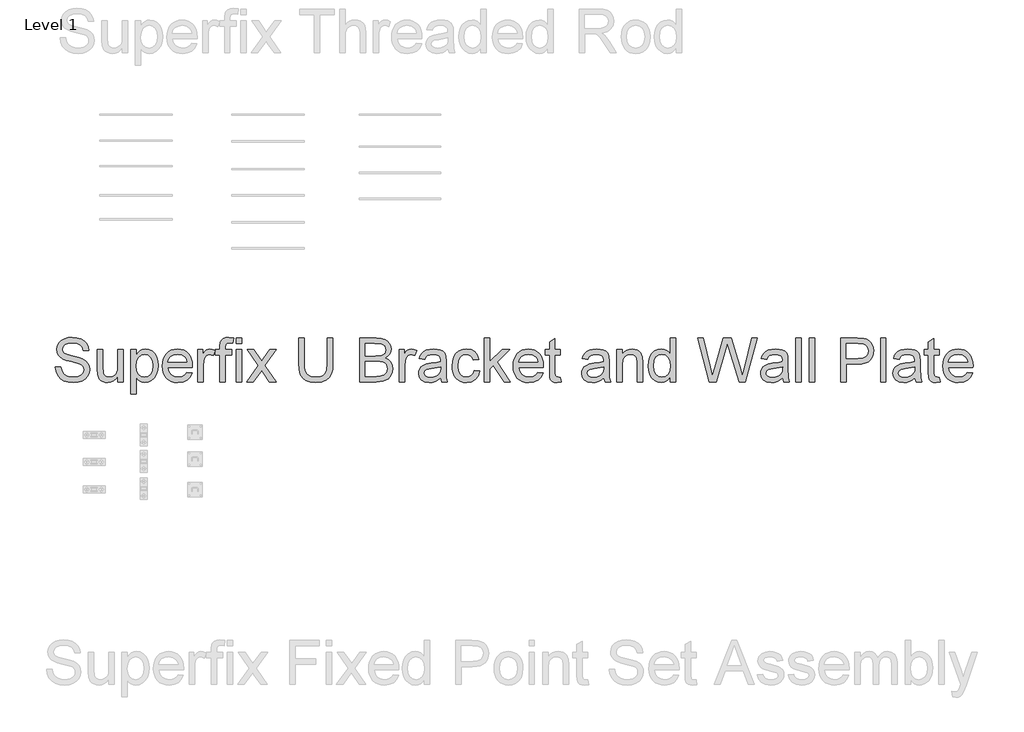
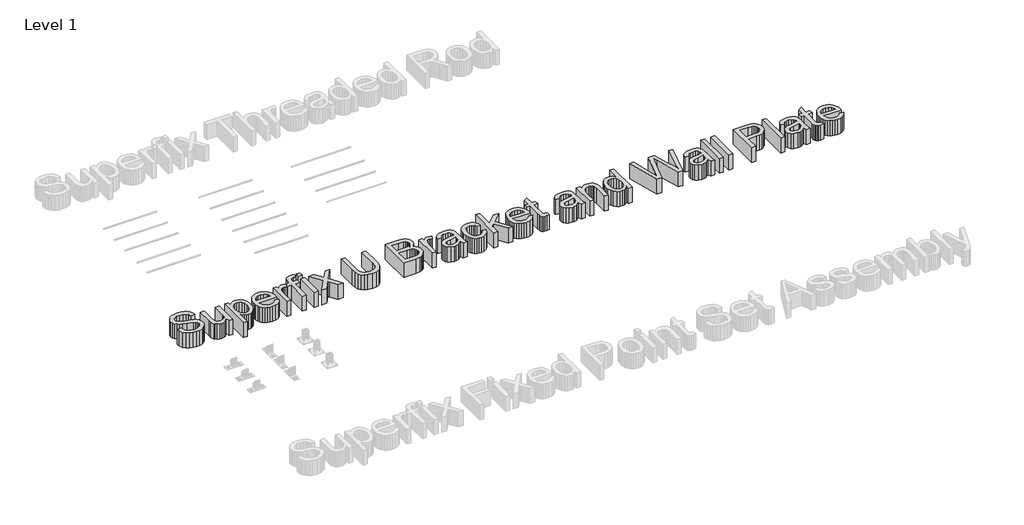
# One storey, part 23 of 32: 1 proxy.
"""IFC4 building model written with IfcOpenShell, lengths in millimetres."""

from ifc_helpers import new_model, si_unit, origin, origin_with_axes, place, context, project, spatial, polyline, outline, extrude, element, save

model = new_model("IFC4")

# Units and contexts
model_context = context("Model", 3, world=origin())
ifc_project = project(units=[si_unit("LENGTHUNIT", "METRE", prefix="MILLI")], contexts=[model_context])

# Site, building, storey
site = spatial("IfcSite", under=ifc_project)
building = spatial("IfcBuilding", under=site)
storey = spatial("IfcBuildingStorey", under=building, Name="Level 1", Elevation=0.0)

# Proxy
placement = place(None, origin())
element("IfcBuildingElementProxy", 1, Name="300mm Arial 2", ObjectType="300mm Arial 2", at=placement, inside=storey, context=model_context, shape_type="SweptSolid", body=[
    extrude(outline(polyline([(-40431.7020951, 20689.4230477), (-40394.0309788, 20689.4230477), (-40389.7083653, 20668.5181533), (-40381.8908729, 20651.7151432), (-40369.6955848, 20638.3794209), (-40352.2395841, 20627.8763899), (-40330.9024284, 20621.0613759), (-40307.0636751, 20618.7897046), (-40286.0760073, 20620.5095529), (-40267.7003016, 20625.6690979), (-40252.8102779, 20633.8360782), (-40242.2796558, 20644.5782325), (-40236.0164648, 20656.9114764), (-40233.9287345, 20669.8517255), (-40235.4922329, 20682.4608809), (-40240.1827284, 20693.359385), (-40249.7108721, 20702.6576025), (-40265.7873152, 20710.4658978), (-40320.6385207, 20724.8500838), (-40356.644971, 20734.3690304), (-40379.683581, 20743.4281246), (-40398.4363657, 20756.1016593), (-40411.7261027, 20771.4607326), (-40419.6447627, 20789.1742507), (-40422.284316, 20808.9111197), (-40419.0193633, 20830.9748424), (-40409.2245052, 20851.548643), (-40393.157259, 20868.9862495), (-40371.0751423, 20881.6413902), (-40344.5692445, 20889.3393209), (-40315.2306554, 20891.9052978), (-40283.445651, 20889.2197593), (-40255.6337722, 20881.1631436), (-40232.7883003, 20867.9009976), (-40215.9025167, 20849.5988684), (-40205.2155447, 20827.39719), (-40200.9665077, 20802.4363966), (-40238.637624, 20802.4363966), (-40245.5538055, 20824.9139865), (-40259.9747797, 20841.1375825), (-40282.5075519, 20850.9600318), (-40313.7591274, 20854.2341815), (-40345.7464669, 20850.99682), (-40367.6906279, 20841.2847353), (-40380.3825567, 20826.9925198), (-40384.6131997, 20810.0147657), (-40381.6149614, 20795.5386092), (-40372.6202466, 20783.895144), (-40351.3566673, 20773.4840836), (-40311.1103771, 20762.8522939), (-40269.5764998, 20752.7539332), (-40244.4501595, 20743.9431594), (-40222.9750481, 20730.2763432), (-40207.9930538, 20713.4089538), (-40199.1914771, 20693.5249319), (-40196.2576182, 20670.8082187), (-40199.6329355, 20647.5856678), (-40209.7588874, 20625.7426743), (-40226.2216067, 20606.9439044), (-40248.6072261, 20592.8540239), (-40275.5269911, 20584.0524472), (-40305.5921471, 20581.1185883), (-40342.4999083, 20584.2823735), (-40372.877764, 20593.7737289), (-40397.0752023, 20609.6294429), (-40415.4417109, 20631.8863036), (-40427.2323288, 20658.9992067), (-40431.7020951, 20689.4230477)])), origin_with_axes(), (0.0, 0.0, 1.0), 150.0),
    extrude(outline(polyline([(-40003.1931471, 20585.8274778), (-40003.1931471, 20623.8664761), (-40016.823175, 20605.1642752), (-40032.6972831, 20591.8055603), (-40050.8154714, 20583.7903313), (-40071.1777398, 20581.1185883), (-40089.5258543, 20582.9947865), (-40106.6047759, 20588.623381), (-40120.9337796, 20597.0846669), (-40131.0321404, 20607.4589392), (-40142.2525413, 20635.1972416), (-40144.4598332, 20670.2196075), (-40144.4598332, 20807.1452861), (-40106.7887169, 20807.1452861), (-40106.7887169, 20687.9515197), (-40104.5078486, 20649.5446394), (-40099.0172098, 20636.7331489), (-40089.6086278, 20626.9934731), (-40076.9075019, 20620.8406467), (-40061.5392315, 20618.7897046), (-40045.2880444, 20620.886632), (-40030.0853209, 20627.1774141), (-40017.549742, 20637.0826368), (-40009.2999882, 20650.022886), (-40004.7198574, 20667.7456011), (-40003.1931471, 20691.9982216), (-40003.1931471, 20807.1452861), (-39965.5220308, 20807.1452861), (-39965.5220308, 20585.8274778), (-40003.1931471, 20585.8274778)])), origin_with_axes(), (0.0, 0.0, 1.0), 150.0),
    extrude(outline(polyline([(-39913.7242459, 20501.0674662), (-39913.7242459, 20807.1452861), (-39876.0531296, 20807.1452861), (-39876.0531296, 20770.2099338), (-39863.7658709, 20788.4292896), (-39850.0070843, 20801.4431152), (-39833.9674293, 20809.2514106), (-39814.8375656, 20811.8541757), (-39789.3617374, 20808.2121439), (-39767.0864826, 20797.2860487), (-39748.9499002, 20779.7380775), (-39735.8900894, 20756.230418), (-39727.9990206, 20728.4737215), (-39725.3686643, 20698.1786392), (-39728.3393114, 20665.9613734), (-39737.2512528, 20637.1470162), (-39751.8193798, 20613.1978983), (-39771.7585839, 20595.5763507), (-39794.9811349, 20584.7330289), (-39819.3993023, 20581.1185883), (-39836.7173472, 20583.5374124), (-39852.1775881, 20590.7938848), (-39865.4121428, 20601.7475712), (-39876.0531296, 20615.2580375), (-39876.0531296, 20501.0674662), (-39913.7242459, 20501.0674662)]), holes=[polyline([(-39876.0531296, 20694.7205484), (-39871.9788365, 20660.9489813), (-39859.7559572, 20637.3309572), (-39841.7205424, 20623.4250177), (-39820.2086427, 20618.7897046), (-39798.3472551, 20623.5905646), (-39779.8519878, 20637.9931448), (-39767.2428324, 20662.4756915), (-39763.0397806, 20697.5164516), (-39767.1416649, 20731.1040777), (-39779.4473176, 20755.0531956), (-39797.4551413, 20769.4005934), (-39818.6635383, 20774.1830594), (-39839.9547088, 20769.0970908), (-39858.6523112, 20753.839185), (-39871.702925, 20728.8875887), (-39876.0531296, 20694.7205484)])]), origin_with_axes(), (0.0, 0.0, 1.0), 150.0),
    extrude(outline(polyline([(-39528.0367621, 20651.7519314), (-39491.1014098, 20647.0430418), (-39504.409541, 20619.2127689), (-39525.6455291, 20598.4090421), (-39554.3311277, 20585.4412017), (-39589.9880901, 20581.1185883), (-39613.3623924, 20582.9832902), (-39634.1891118, 20588.5773958), (-39652.4682485, 20597.9009051), (-39668.1998023, 20610.9538181), (-39680.8503444, 20627.3728514), (-39689.8864459, 20646.7947215), (-39695.3081068, 20669.2194284), (-39697.1153271, 20694.646972), (-39695.2897127, 20720.9367391), (-39689.8128695, 20744.1087063), (-39680.6847975, 20764.1628735), (-39667.9054967, 20781.0992409), (-39652.2153296, 20794.5545249), (-39634.3546587, 20804.165442), (-39614.3234841, 20809.9319923), (-39592.1218057, 20811.8541757), (-39570.6351979, 20809.9365908), (-39551.2041308, 20804.1838361), (-39533.8286043, 20794.5959116), (-39518.5086184, 20781.1728173), (-39506.0029299, 20764.2732381), (-39497.0702952, 20744.2558591), (-39491.7107144, 20721.1206801), (-39489.9241874, 20694.8677012), (-39490.1449166, 20684.7141581), (-39659.4442108, 20684.7141581), (-39652.9235024, 20656.5160032), (-39637.7759613, 20635.7858528), (-39615.9145737, 20623.0387417), (-39589.2523261, 20618.7897046), (-39569.2027574, 20620.7578733), (-39552.3169738, 20626.6623793), (-39538.5949754, 20636.8711047), (-39528.0367621, 20651.7519314)]), holes=[polyline([(-39659.4442108, 20722.3852745), (-39527.5953037, 20722.3852745), (-39532.6904694, 20742.2876904), (-39542.6784655, 20756.5247236), (-39564.6410206, 20769.7684754), (-39592.2689585, 20774.1830594), (-39617.6620132, 20770.6605893), (-39638.6588781, 20760.093179), (-39653.2545962, 20743.6212626), (-39659.4442108, 20722.3852745)])]), origin_with_axes(), (0.0, 0.0, 1.0), 150.0),
    extrude(outline(polyline([(-39452.2530711, 20585.8274778), (-39452.2530711, 20807.1452861), (-39419.2908443, 20807.1452861), (-39419.2908443, 20774.4037886), (-39407.1139503, 20793.3864995), (-39395.8935495, 20804.5701122), (-39384.6363604, 20810.0331598), (-39372.3491018, 20811.8541757), (-39353.58712, 20808.9479079), (-39334.5308327, 20800.2291046), (-39347.1123969, 20766.4575375), (-39360.3561487, 20772.2516789), (-39373.5999005, 20774.1830594), (-39384.8478925, 20772.3252553), (-39394.9002681, 20766.7518431), (-39403.0212631, 20757.885887), (-39408.4751137, 20746.1504513), (-39413.0552445, 20725.1076012), (-39414.5819548, 20702.1517647), (-39414.5819548, 20585.8274778), (-39452.2530711, 20585.8274778)])), origin_with_axes(), (0.0, 0.0, 1.0), 150.0),
    extrude(outline(polyline([(-39301.5686059, 20585.8274778), (-39301.5686059, 20769.4741698), (-39334.5308327, 20769.4741698), (-39334.5308327, 20807.1452861), (-39301.5686059, 20807.1452861), (-39301.5686059, 20829.438935), (-39297.5954803, 20860.8560574), (-39290.0171112, 20873.3824394), (-39278.3184638, 20883.2968591), (-39261.947715, 20889.7531882), (-39240.3530419, 20891.9052978), (-39205.9928635, 20887.7850195), (-39211.5110935, 20852.4683479), (-39233.2161312, 20854.2341815), (-39247.5359378, 20852.670683), (-39256.9445199, 20847.9801876), (-39262.1592472, 20839.022261), (-39263.8974896, 20824.6564691), (-39263.8974896, 20807.1452861), (-39221.5174837, 20807.1452861), (-39221.5174837, 20769.4741698), (-39263.8974896, 20769.4741698), (-39263.8974896, 20585.8274778), (-39301.5686059, 20585.8274778)])), origin_with_axes(), (0.0, 0.0, 1.0), 150.0),
    extrude(outline(polyline([(-39188.555257, 20585.8274778), (-39188.555257, 20807.1452861), (-39150.8841407, 20807.1452861), (-39150.8841407, 20585.8274778), (-39188.555257, 20585.8274778)])), origin_with_axes(), (0.0, 0.0, 1.0), 150.0),
    extrude(outline(polyline([(-39188.555257, 20849.525292), (-39188.555257, 20887.1964083), (-39150.8841407, 20887.1964083), (-39150.8841407, 20849.525292), (-39188.555257, 20849.525292)])), origin_with_axes(), (0.0, 0.0, 1.0), 150.0),
    extrude(outline(polyline([(-39117.9219139, 20585.8274778), (-39037.4293334, 20697.0749932), (-39113.2130244, 20807.1452861), (-39067.8899626, 20807.1452861), (-39031.3224922, 20754.1702788), (-39014.2527677, 20729.1543032), (-38999.4639114, 20749.6085421), (-38957.8196696, 20807.1452861), (-38912.4966078, 20807.1452861), (-38992.1062715, 20697.0749932), (-38915.4396637, 20585.8274778), (-38960.7627256, 20585.8274778), (-39006.8951278, 20652.7084246), (-39015.3564136, 20664.9221068), (-39072.5988521, 20585.8274778), (-39117.9219139, 20585.8274778)])), origin_with_axes(), (0.0, 0.0, 1.0), 150.0),
    extrude(outline(polyline([(-38562.2729484, 20887.1964083), (-38524.6018321, 20887.1964083), (-38524.6018321, 20713.3353774), (-38527.1586119, 20672.6200376), (-38534.8289515, 20641.2672945), (-38549.1579553, 20617.0790533), (-38571.6907275, 20597.8572191), (-38602.4824505, 20585.303246), (-38641.5883065, 20581.1185883), (-38679.838837, 20584.7606201), (-38710.4190278, 20595.6867153), (-38733.3380761, 20613.519795), (-38748.6051789, 20637.8827802), (-38757.1860265, 20670.5598984), (-38760.046309, 20713.3353774), (-38760.046309, 20887.1964083), (-38722.3751927, 20887.1964083), (-38722.3751927, 20714.6597526), (-38720.5173886, 20680.8054119), (-38714.9439764, 20657.2333731), (-38704.8456156, 20640.9086096), (-38689.4129659, 20628.7960949), (-38669.2898208, 20621.2913022), (-38645.1199737, 20618.7897046), (-38606.8050639, 20623.7377174), (-38592.4622646, 20629.9227335), (-38581.3292357, 20638.5817559), (-38572.99211, 20650.75865), (-38567.0370202, 20667.4972808), (-38562.2729484, 20714.6597526), (-38562.2729484, 20887.1964083)])), origin_with_axes(), (0.0, 0.0, 1.0), 150.0),
    extrude(outline(polyline([(-38340.9551401, 20585.8274778), (-38340.9551401, 20887.1964083), (-38225.9552284, 20887.1964083), (-38194.3265739, 20884.9799193), (-38169.6324949, 20878.3304522), (-38150.7049663, 20867.0824602), (-38136.3759626, 20851.0703964), (-38127.3536566, 20832.2348382), (-38124.3462213, 20812.5163633), (-38126.87541, 20794.3705839), (-38134.4629762, 20777.3100563), (-38147.1641021, 20762.3832444), (-38165.03397, 20750.6386117), (-38143.6876172, 20739.4917872), (-38127.9146767, 20722.5324272), (-38118.1750009, 20700.8825718), (-38114.9284422, 20675.6642611), (-38117.1449313, 20654.6490021), (-38123.7943983, 20635.1604534), (-38133.7180151, 20618.5873695), (-38145.7569534, 20606.318505), (-38160.4998244, 20597.4341548), (-38178.5352392, 20591.014614), (-38226.8381452, 20585.8274778), (-38340.9551401, 20585.8274778)]), holes=[polyline([(-38303.2840238, 20623.4985941), (-38226.0288048, 20623.4985941), (-38198.0697732, 20624.9701221), (-38174.4149609, 20633.1738906), (-38158.7431879, 20649.9125214), (-38154.1354659, 20661.7399275), (-38152.5995586, 20675.2963791), (-38154.4021803, 20691.0417285), (-38159.8100457, 20704.5797859), (-38169.2554159, 20715.1655903), (-38183.1705524, 20722.0541807), (-38202.8798302, 20725.8341682), (-38229.7076247, 20727.094164), (-38303.2840238, 20727.094164), (-38303.2840238, 20623.4985941)]), polyline([(-38303.2840238, 20764.7652803), (-38234.4900907, 20764.7652803), (-38194.3173768, 20768.0026419), (-38180.2550875, 20773.5852511), (-38170.1475297, 20781.9453695), (-38164.0498857, 20792.9542382), (-38162.0173376, 20806.4830985), (-38163.9119299, 20819.6164858), (-38169.5957067, 20831.0576158), (-38178.8111507, 20839.9879513), (-38191.3007444, 20845.5889546), (-38239.714015, 20849.525292), (-38303.2840238, 20849.525292), (-38303.2840238, 20764.7652803)])]), origin_with_axes(), (0.0, 0.0, 1.0), 150.0),
    extrude(outline(polyline([(-38067.8395469, 20585.8274778), (-38067.8395469, 20807.1452861), (-38034.8773201, 20807.1452861), (-38034.8773201, 20774.4037886), (-38022.7004261, 20793.3864995), (-38011.4800252, 20804.5701122), (-38000.2228361, 20810.0331598), (-37987.9355775, 20811.8541757), (-37969.1735958, 20808.9479079), (-37950.1173084, 20800.2291046), (-37962.6988726, 20766.4575375), (-37975.9426245, 20772.2516789), (-37989.1863763, 20774.1830594), (-38000.4343683, 20772.3252553), (-38010.4867438, 20766.7518431), (-38018.6077389, 20757.885887), (-38024.0615894, 20746.1504513), (-38028.6417203, 20725.1076012), (-38030.1684306, 20702.1517647), (-38030.1684306, 20585.8274778), (-38067.8395469, 20585.8274778)])), origin_with_axes(), (0.0, 0.0, 1.0), 150.0),
    extrude(outline(polyline([(-37785.3061746, 20614.0808151), (-37803.3048012, 20598.6481654), (-37821.8368567, 20588.5498046), (-37841.3254054, 20582.9763924), (-37862.1935116, 20581.1185883), (-37893.6750133, 20585.5883545), (-37916.8975642, 20598.9976533), (-37931.2173709, 20619.3599217), (-37935.9906398, 20644.6885971), (-37934.188018, 20660.3051878), (-37928.7801527, 20674.4870387), (-37920.4384284, 20686.6271445), (-37909.8342299, 20696.1185), (-37883.4570909, 20708.479335), (-37850.8627461, 20714.1447178), (-37812.3455012, 20720.1044061), (-37785.5269038, 20727.094164), (-37785.3061746, 20735.4818735), (-37787.8997426, 20752.2940807), (-37795.6804468, 20763.2937523), (-37813.0812652, 20771.4607326), (-37837.3246887, 20774.1830594), (-37859.7654904, 20772.3712405), (-37875.4372634, 20766.9357841), (-37886.1242353, 20756.8834085), (-37893.6106339, 20741.2208326), (-37931.2817503, 20745.9297221), (-37924.7426478, 20766.5311139), (-37914.9845779, 20782.7179217), (-37901.0970325, 20795.0971508), (-37882.1695039, 20804.2758066), (-37859.0205294, 20809.9595834), (-37832.4686463, 20811.8541757), (-37807.0020152, 20810.1803126), (-37786.8144907, 20805.1587234), (-37771.5933732, 20797.6079454), (-37761.0259629, 20788.3465162), (-37754.0178109, 20776.8961891), (-37749.4744682, 20762.7787175), (-37747.6350583, 20729.8164908), (-37747.6350583, 20682.9483246), (-37745.7220719, 20617.5021176), (-37738.2172792, 20585.8274778), (-37775.8883955, 20585.8274778), (-37785.3061746, 20614.0808151)]), holes=[polyline([(-37785.3061746, 20689.4230477), (-37846.0802802, 20677.871553), (-37878.4906839, 20671.7647119), (-37893.1691756, 20661.831898), (-37898.3195235, 20647.3373474), (-37895.5144233, 20636.1353407), (-37887.0991226, 20626.9566849), (-37873.2575626, 20620.8314497), (-37854.1736841, 20618.7897046), (-37833.9401743, 20621.0429818), (-37816.0611094, 20627.8028135), (-37801.5665588, 20637.7632185), (-37791.4865921, 20649.6182158), (-37787.0168258, 20661.831898), (-37785.5269038, 20678.7544698), (-37785.3061746, 20689.4230477)])]), origin_with_axes(), (0.0, 0.0, 1.0), 150.0),
    extrude(outline(polyline([(-37554.5705872, 20665.8786), (-37516.8994709, 20661.1697105), (-37527.4025018, 20627.6648577), (-37547.1393709, 20602.3453794), (-37574.2522739, 20586.4252861), (-37606.8834069, 20581.1185883), (-37628.0113297, 20582.9694946), (-37646.9549532, 20588.5222135), (-37663.7142774, 20597.7767449), (-37678.2893022, 20610.7330889), (-37690.0868179, 20627.1475237), (-37698.5136149, 20646.7763274), (-37703.569693, 20669.6195), (-37705.2550524, 20695.6770416), (-37702.3763758, 20729.2002884), (-37693.740346, 20758.253769), (-37679.2090072, 20781.7154432), (-37658.6444036, 20798.4632711), (-37634.0422952, 20808.5064495), (-37607.3984417, 20811.8541757), (-37575.5674521, 20807.2556507), (-37550.119215, 20793.4600759), (-37531.863071, 20771.2032152), (-37521.6083604, 20741.2208326), (-37559.2794767, 20736.5119431), (-37566.1128848, 20752.9470712), (-37576.7538715, 20764.7284921), (-37590.6138257, 20771.8194176), (-37607.1041361, 20774.1830594), (-37631.4487271, 20769.5293521), (-37650.7717289, 20755.5682304), (-37663.3808843, 20731.5455361), (-37667.5839361, 20696.7071112), (-37663.4728548, 20661.3996367), (-37651.1396109, 20637.294169), (-37632.166097, 20623.4158207), (-37608.1342057, 20618.7897046), (-37588.6272629, 20621.6775783), (-37572.6335932, 20630.3411993), (-37560.9993251, 20645.0012968), (-37554.5705872, 20665.8786)])), origin_with_axes(), (0.0, 0.0, 1.0), 150.0),
    extrude(outline(polyline([(-37483.9372441, 20585.8274778), (-37483.9372441, 20887.1964083), (-37446.2661278, 20887.1964083), (-37446.2661278, 20725.254754), (-37361.8004217, 20807.1452861), (-37309.7083312, 20807.1452861), (-37395.2041069, 20724.2246844), (-37304.9994417, 20585.8274778), (-37348.9981283, 20585.8274778), (-37422.2066453, 20698.0314864), (-37446.2661278, 20674.7077679), (-37446.2661278, 20585.8274778), (-37483.9372441, 20585.8274778)])), origin_with_axes(), (0.0, 0.0, 1.0), 150.0),
    extrude(outline(polyline([(-37117.0853185, 20651.7519314), (-37080.1499662, 20647.0430418), (-37093.4580974, 20619.2127689), (-37114.6940856, 20598.4090421), (-37143.3796841, 20585.4412017), (-37179.0366465, 20581.1185883), (-37202.4109488, 20582.9832902), (-37223.2376682, 20588.5773958), (-37241.5168049, 20597.9009051), (-37257.2483587, 20610.9538181), (-37269.8989008, 20627.3728514), (-37278.9350023, 20646.7947215), (-37284.3566632, 20669.2194284), (-37286.1638835, 20694.646972), (-37284.3382691, 20720.9367391), (-37278.8614259, 20744.1087063), (-37269.7333539, 20764.1628735), (-37256.9540531, 20781.0992409), (-37241.263886, 20794.5545249), (-37223.4032151, 20804.165442), (-37203.3720405, 20809.9319923), (-37181.1703621, 20811.8541757), (-37159.6837543, 20809.9365908), (-37140.2526872, 20804.1838361), (-37122.8771607, 20794.5959116), (-37107.5571749, 20781.1728173), (-37095.0514863, 20764.2732381), (-37086.1188516, 20744.2558591), (-37080.7592708, 20721.1206801), (-37078.9727438, 20694.8677012), (-37079.193473, 20684.7141581), (-37248.4927672, 20684.7141581), (-37241.9720588, 20656.5160032), (-37226.8245177, 20635.7858528), (-37204.9631301, 20623.0387417), (-37178.3008825, 20618.7897046), (-37158.2513138, 20620.7578733), (-37141.3655302, 20626.6623793), (-37127.6435318, 20636.8711047), (-37117.0853185, 20651.7519314)]), holes=[polyline([(-37248.4927672, 20722.3852745), (-37116.6438601, 20722.3852745), (-37121.7390258, 20742.2876904), (-37131.7270219, 20756.5247236), (-37153.689577, 20769.7684754), (-37181.3175149, 20774.1830594), (-37206.7105696, 20770.6605893), (-37227.7074345, 20760.093179), (-37242.3031526, 20743.6212626), (-37248.4927672, 20722.3852745)])]), origin_with_axes(), (0.0, 0.0, 1.0), 150.0),
    extrude(outline(polyline([(-36961.2505054, 20617.2446002), (-36956.5416158, 20584.7238319), (-36984.7213767, 20581.1185883), (-37002.8027767, 20582.6820868), (-37016.2856518, 20587.3725822), (-37025.8137955, 20594.6014634), (-37032.0310012, 20603.7801192), (-37035.4523038, 20619.5438627), (-37036.592738, 20646.528007), (-37036.592738, 20769.4741698), (-37064.8460752, 20769.4741698), (-37064.8460752, 20807.1452861), (-37036.592738, 20807.1452861), (-37036.592738, 20860.9296338), (-36998.9216217, 20883.0761299), (-36998.9216217, 20807.1452861), (-36961.2505054, 20807.1452861), (-36961.2505054, 20769.4741698), (-36998.9216217, 20769.4741698), (-36998.9216217, 20647.631653), (-36996.9350589, 20628.2074837), (-36990.497124, 20621.3280904), (-36977.6580424, 20618.7897046), (-36961.2505054, 20617.2446002)])), origin_with_axes(), (0.0, 0.0, 1.0), 150.0),
    extrude(outline(polyline([(-36664.5904645, 20614.0808151), (-36682.5890911, 20598.6481654), (-36701.1211466, 20588.5498046), (-36720.6096953, 20582.9763924), (-36741.4778015, 20581.1185883), (-36772.9593032, 20585.5883545), (-36796.1818541, 20598.9976533), (-36810.5016608, 20619.3599217), (-36815.2749297, 20644.6885971), (-36813.4723079, 20660.3051878), (-36808.0644426, 20674.4870387), (-36799.7227183, 20686.6271445), (-36789.1185198, 20696.1185), (-36762.7413808, 20708.479335), (-36730.147036, 20714.1447178), (-36691.6297911, 20720.1044061), (-36664.8111937, 20727.094164), (-36664.5904645, 20735.4818735), (-36667.1840325, 20752.2940807), (-36674.9647367, 20763.2937523), (-36692.3655551, 20771.4607326), (-36716.6089786, 20774.1830594), (-36739.0497803, 20772.3712405), (-36754.7215533, 20766.9357841), (-36765.4085252, 20756.8834085), (-36772.8949238, 20741.2208326), (-36810.5660401, 20745.9297221), (-36804.0269377, 20766.5311139), (-36794.2688678, 20782.7179217), (-36780.3813224, 20795.0971508), (-36761.4537938, 20804.2758066), (-36738.3048192, 20809.9595834), (-36711.7529362, 20811.8541757), (-36686.2863051, 20810.1803126), (-36666.0987806, 20805.1587234), (-36650.8776631, 20797.6079454), (-36640.3102528, 20788.3465162), (-36633.3021008, 20776.8961891), (-36628.7587581, 20762.7787175), (-36626.9193482, 20729.8164908), (-36626.9193482, 20682.9483246), (-36625.0063618, 20617.5021176), (-36617.5015691, 20585.8274778), (-36655.1726854, 20585.8274778), (-36664.5904645, 20614.0808151)]), holes=[polyline([(-36664.5904645, 20689.4230477), (-36725.3645701, 20677.871553), (-36757.7749738, 20671.7647119), (-36772.4534654, 20661.831898), (-36777.6038134, 20647.3373474), (-36774.7987132, 20636.1353407), (-36766.3834125, 20626.9566849), (-36752.5418525, 20620.8314497), (-36733.457974, 20618.7897046), (-36713.2244642, 20621.0429818), (-36695.3453993, 20627.8028135), (-36680.8508486, 20637.7632185), (-36670.770882, 20649.6182158), (-36666.3011157, 20661.831898), (-36664.8111937, 20678.7544698), (-36664.5904645, 20689.4230477)])]), origin_with_axes(), (0.0, 0.0, 1.0), 150.0),
    extrude(outline(polyline([(-36575.1215632, 20585.8274778), (-36575.1215632, 20807.1452861), (-36537.4504469, 20807.1452861), (-36537.4504469, 20776.2431985), (-36524.3630449, 20791.823001), (-36508.6452867, 20802.9514314), (-36490.2971722, 20809.6284896), (-36469.3187014, 20811.8541757), (-36450.7498577, 20810.060751), (-36433.7445125, 20804.6804768), (-36419.5626616, 20796.3847378), (-36409.4643008, 20785.8449186), (-36398.1703236, 20758.1434044), (-36396.1837608, 20721.7230869), (-36396.1837608, 20585.8274778), (-36433.8548771, 20585.8274778), (-36433.8548771, 20716.6463153), (-36438.1958846, 20749.9764241), (-36444.2015582, 20759.9000409), (-36453.5365638, 20767.5979717), (-36465.5019257, 20772.5367874), (-36479.3986681, 20774.1830594), (-36501.4623907, 20770.4858453), (-36520.2703578, 20759.3942032), (-36527.7866468, 20750.3397076), (-36533.1554246, 20737.9650769), (-36537.4504469, 20703.2554107), (-36537.4504469, 20585.8274778), (-36575.1215632, 20585.8274778)])), origin_with_axes(), (0.0, 0.0, 1.0), 150.0),
    extrude(outline(polyline([(-36207.8281792, 20585.8274778), (-36207.8281792, 20621.3648786), (-36219.0991639, 20603.7571266), (-36232.7521844, 20591.1801609), (-36248.7872409, 20583.6339814), (-36267.2043333, 20581.1185883), (-36291.5581214, 20584.7606201), (-36313.8517703, 20595.6867153), (-36332.7241166, 20613.1335189), (-36346.813997, 20636.3376758), (-36355.5879826, 20664.3610868), (-36358.5126445, 20696.2656528), (-36355.8179089, 20727.7747457), (-36347.733702, 20756.230418), (-36334.269221, 20780.013989), (-36315.4336628, 20797.5067779), (-36292.6525703, 20808.2673262), (-36267.3514861, 20811.8541757), (-36248.9205981, 20809.2881988), (-36232.6234257, 20801.590268), (-36218.8094568, 20789.790453), (-36207.8281792, 20774.9188234), (-36207.8281792, 20887.1964083), (-36170.1570629, 20887.1964083), (-36170.1570629, 20585.8274778), (-36207.8281792, 20585.8274778)]), holes=[polyline([(-36320.8415282, 20696.4128056), (-36316.5924911, 20662.3377358), (-36303.84538, 20638.1035094), (-36285.3225215, 20623.6181558), (-36263.7462425, 20618.7897046), (-36242.1791605, 20623.3974266), (-36224.1253516, 20637.2205926), (-36211.9024723, 20660.5167199), (-36207.8281792, 20693.543326), (-36211.9760487, 20729.6509439), (-36224.4196572, 20754.6853136), (-36242.9333186, 20769.3086229), (-36265.2913469, 20774.1830594), (-36287.0883551, 20769.501761), (-36304.949026, 20755.4578658), (-36316.8684026, 20731.334004), (-36320.8415282, 20696.4128056)])]), origin_with_axes(), (0.0, 0.0, 1.0), 150.0),
    extrude(outline(polyline([(-35937.28776, 20585.8274778), (-36019.4725977, 20887.1964083), (-35980.624259, 20887.1964083), (-35932.9467525, 20689.1287421), (-35918.2314726, 20627.9867545), (-35902.4861233, 20682.0654078), (-35842.7420872, 20887.1964083), (-35786.7504476, 20887.1964083), (-35743.3403721, 20738.4985058), (-35724.7439373, 20683.3162066), (-35711.040333, 20627.9867545), (-35696.7665115, 20687.3629085), (-35648.6475466, 20887.1964083), (-35609.7992079, 20887.1964083), (-35692.057622, 20585.8274778), (-35732.3039123, 20585.8274778), (-35804.5559361, 20818.3288988), (-35814.6359028, 20850.7760908), (-35825.9666683, 20811.7070229), (-35891.8175454, 20585.8274778), (-35937.28776, 20585.8274778)])), origin_with_axes(), (0.0, 0.0, 1.0), 150.0),
    extrude(outline(polyline([(-35435.570295, 20614.0808151), (-35453.5689216, 20598.6481654), (-35472.1009771, 20588.5498046), (-35491.5895258, 20582.9763924), (-35512.457632, 20581.1185883), (-35543.9391337, 20585.5883545), (-35567.1616846, 20598.9976533), (-35581.4814913, 20619.3599217), (-35586.2547602, 20644.6885971), (-35584.4521384, 20660.3051878), (-35579.0442731, 20674.4870387), (-35570.7025489, 20686.6271445), (-35560.0983503, 20696.1185), (-35533.7212113, 20708.479335), (-35501.1268665, 20714.1447178), (-35462.6096216, 20720.1044061), (-35435.7910242, 20727.094164), (-35435.570295, 20735.4818735), (-35438.163863, 20752.2940807), (-35445.9445672, 20763.2937523), (-35463.3453856, 20771.4607326), (-35487.5888091, 20774.1830594), (-35510.0296108, 20772.3712405), (-35525.7013838, 20766.9357841), (-35536.3883558, 20756.8834085), (-35543.8747544, 20741.2208326), (-35581.5458707, 20745.9297221), (-35575.0067682, 20766.5311139), (-35565.2486983, 20782.7179217), (-35551.361153, 20795.0971508), (-35532.4336243, 20804.2758066), (-35509.2846498, 20809.9595834), (-35482.7327668, 20811.8541757), (-35457.2661356, 20810.1803126), (-35437.0786112, 20805.1587234), (-35421.8574936, 20797.6079454), (-35411.2900833, 20788.3465162), (-35404.2819313, 20776.8961891), (-35399.7385886, 20762.7787175), (-35397.8991787, 20729.8164908), (-35397.8991787, 20682.9483246), (-35395.9861923, 20617.5021176), (-35388.4813996, 20585.8274778), (-35426.1525159, 20585.8274778), (-35435.570295, 20614.0808151)]), holes=[polyline([(-35435.570295, 20689.4230477), (-35496.3444006, 20677.871553), (-35528.7548044, 20671.7647119), (-35543.433296, 20661.831898), (-35548.5836439, 20647.3373474), (-35545.7785437, 20636.1353407), (-35537.363243, 20626.9566849), (-35523.521683, 20620.8314497), (-35504.4378045, 20618.7897046), (-35484.2042947, 20621.0429818), (-35466.3252298, 20627.8028135), (-35451.8306792, 20637.7632185), (-35441.7507125, 20649.6182158), (-35437.2809463, 20661.831898), (-35435.7910242, 20678.7544698), (-35435.570295, 20689.4230477)])]), origin_with_axes(), (0.0, 0.0, 1.0), 150.0),
    extrude(outline(polyline([(-35346.1013937, 20585.8274778), (-35346.1013937, 20887.1964083), (-35308.4302774, 20887.1964083), (-35308.4302774, 20585.8274778), (-35346.1013937, 20585.8274778)])), origin_with_axes(), (0.0, 0.0, 1.0), 150.0),
    extrude(outline(polyline([(-35251.923603, 20585.8274778), (-35251.923603, 20887.1964083), (-35214.2524867, 20887.1964083), (-35214.2524867, 20585.8274778), (-35251.923603, 20585.8274778)])), origin_with_axes(), (0.0, 0.0, 1.0), 150.0),
    extrude(outline(polyline([(-35035.3146842, 20585.8274778), (-35035.3146842, 20887.1964083), (-34923.6257105, 20887.1964083), (-34878.5969543, 20884.3269287), (-34858.5197944, 20878.9650486), (-34841.9926958, 20870.2370483), (-34828.6845646, 20857.7474546), (-34818.2643071, 20841.1007943), (-34811.5320666, 20821.4650928), (-34809.2879864, 20800.0083754), (-34810.8032004, 20781.5085096), (-34815.3488423, 20764.4893688), (-34822.9249121, 20748.950953), (-34833.5314099, 20734.8932623), (-34848.0926391, 20723.2406001), (-34867.5329033, 20714.9172699), (-34891.8522024, 20709.9232719), (-34921.0505365, 20708.2586058), (-34997.6435679, 20708.2586058), (-34997.6435679, 20585.8274778), (-35035.3146842, 20585.8274778)]), holes=[polyline([(-34997.6435679, 20745.9297221), (-34918.8432445, 20745.9297221), (-34885.4395594, 20749.3878129), (-34863.3666397, 20759.7620852), (-34851.0609869, 20776.4087454), (-34846.9591027, 20798.6840002), (-34849.3779268, 20815.606572), (-34856.6343992, 20829.8803934), (-34867.8272089, 20840.6225477), (-34882.055045, 20846.950118), (-34919.7261613, 20849.525292), (-34997.6435679, 20849.525292), (-34997.6435679, 20745.9297221)])]), origin_with_axes(), (0.0, 0.0, 1.0), 150.0),
    extrude(outline(polyline([(-34762.199091, 20585.8274778), (-34762.199091, 20887.1964083), (-34724.5279747, 20887.1964083), (-34724.5279747, 20585.8274778), (-34762.199091, 20585.8274778)])), origin_with_axes(), (0.0, 0.0, 1.0), 150.0),
    extrude(outline(polyline([(-34526.7546141, 20614.0808151), (-34544.7532407, 20598.6481654), (-34563.2852962, 20588.5498046), (-34582.7738449, 20582.9763924), (-34603.6419511, 20581.1185883), (-34635.1234528, 20585.5883545), (-34658.3460038, 20598.9976533), (-34672.6658104, 20619.3599217), (-34677.4390793, 20644.6885971), (-34675.6364575, 20660.3051878), (-34670.2285922, 20674.4870387), (-34661.886868, 20686.6271445), (-34651.2826695, 20696.1185), (-34624.9055304, 20708.479335), (-34592.3111856, 20714.1447178), (-34553.7939407, 20720.1044061), (-34526.9753433, 20727.094164), (-34526.7546141, 20735.4818735), (-34529.3481822, 20752.2940807), (-34537.1288864, 20763.2937523), (-34554.5297047, 20771.4607326), (-34578.7731282, 20774.1830594), (-34601.2139299, 20772.3712405), (-34616.8857029, 20766.9357841), (-34627.5726749, 20756.8834085), (-34635.0590735, 20741.2208326), (-34672.7301898, 20745.9297221), (-34666.1910873, 20766.5311139), (-34656.4330174, 20782.7179217), (-34642.5454721, 20795.0971508), (-34623.6179434, 20804.2758066), (-34600.4689689, 20809.9595834), (-34573.9170859, 20811.8541757), (-34548.4504548, 20810.1803126), (-34528.2629303, 20805.1587234), (-34513.0418127, 20797.6079454), (-34502.4744024, 20788.3465162), (-34495.4662504, 20776.8961891), (-34490.9229078, 20762.7787175), (-34489.0834978, 20729.8164908), (-34489.0834978, 20682.9483246), (-34487.1705114, 20617.5021176), (-34479.6657187, 20585.8274778), (-34517.336835, 20585.8274778), (-34526.7546141, 20614.0808151)]), holes=[polyline([(-34526.7546141, 20689.4230477), (-34587.5287197, 20677.871553), (-34619.9391235, 20671.7647119), (-34634.6176151, 20661.831898), (-34639.767963, 20647.3373474), (-34636.9628628, 20636.1353407), (-34628.5475622, 20626.9566849), (-34614.7060021, 20620.8314497), (-34595.6221236, 20618.7897046), (-34575.3886139, 20621.0429818), (-34557.5095489, 20627.8028135), (-34543.0149983, 20637.7632185), (-34532.9350316, 20649.6182158), (-34528.4652654, 20661.831898), (-34526.9753433, 20678.7544698), (-34526.7546141, 20689.4230477)])]), origin_with_axes(), (0.0, 0.0, 1.0), 150.0),
    extrude(outline(polyline([(-34357.2345907, 20617.2446002), (-34352.5257012, 20584.7238319), (-34380.705462, 20581.1185883), (-34398.7868621, 20582.6820868), (-34412.2697372, 20587.3725822), (-34421.7978809, 20594.6014634), (-34428.0150866, 20603.7801192), (-34431.4363891, 20619.5438627), (-34432.5768233, 20646.528007), (-34432.5768233, 20769.4741698), (-34460.8301606, 20769.4741698), (-34460.8301606, 20807.1452861), (-34432.5768233, 20807.1452861), (-34432.5768233, 20860.9296338), (-34394.905707, 20883.0761299), (-34394.905707, 20807.1452861), (-34357.2345907, 20807.1452861), (-34357.2345907, 20769.4741698), (-34394.905707, 20769.4741698), (-34394.905707, 20647.631653), (-34392.9191442, 20628.2074837), (-34386.4812093, 20621.3280904), (-34373.6421277, 20618.7897046), (-34357.2345907, 20617.2446002)])), origin_with_axes(), (0.0, 0.0, 1.0), 150.0),
    extrude(outline(polyline([(-34164.611578, 20651.7519314), (-34127.6762257, 20647.0430418), (-34140.9843569, 20619.2127689), (-34162.2203451, 20598.4090421), (-34190.9059436, 20585.4412017), (-34226.562906, 20581.1185883), (-34249.9372083, 20582.9832902), (-34270.7639277, 20588.5773958), (-34289.0430644, 20597.9009051), (-34304.7746182, 20610.9538181), (-34317.4251603, 20627.3728514), (-34326.4612618, 20646.7947215), (-34331.8829227, 20669.2194284), (-34333.690143, 20694.646972), (-34331.8645286, 20720.9367391), (-34326.3876854, 20744.1087063), (-34317.2596134, 20764.1628735), (-34304.4803126, 20781.0992409), (-34288.7901455, 20794.5545249), (-34270.9294746, 20804.165442), (-34250.8983, 20809.9319923), (-34228.6966216, 20811.8541757), (-34207.2100138, 20809.9365908), (-34187.7789467, 20804.1838361), (-34170.4034202, 20794.5959116), (-34155.0834344, 20781.1728173), (-34142.5777458, 20764.2732381), (-34133.6451111, 20744.2558591), (-34128.2855303, 20721.1206801), (-34126.4990033, 20694.8677012), (-34126.7197325, 20684.7141581), (-34296.0190267, 20684.7141581), (-34289.4983183, 20656.5160032), (-34274.3507772, 20635.7858528), (-34252.4893896, 20623.0387417), (-34225.827142, 20618.7897046), (-34205.7775733, 20620.7578733), (-34188.8917897, 20626.6623793), (-34175.1697913, 20636.8711047), (-34164.611578, 20651.7519314)]), holes=[polyline([(-34296.0190267, 20722.3852745), (-34164.1701196, 20722.3852745), (-34169.2652853, 20742.2876904), (-34179.2532814, 20756.5247236), (-34201.2158366, 20769.7684754), (-34228.8437744, 20774.1830594), (-34254.2368291, 20770.6605893), (-34275.233694, 20760.093179), (-34289.8294121, 20743.6212626), (-34296.0190267, 20722.3852745)])]), origin_with_axes(), (0.0, 0.0, 1.0), 150.0),
])

save(model, "model.ifc")
